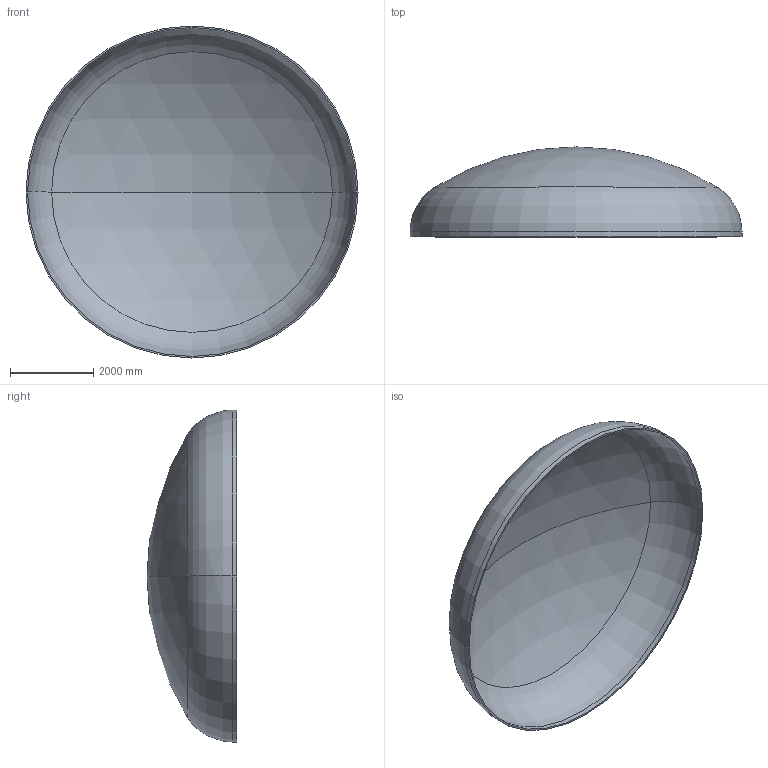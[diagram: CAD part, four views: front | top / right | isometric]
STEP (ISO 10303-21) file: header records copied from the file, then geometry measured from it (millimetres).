
FILE_DESCRIPTION (( 'STEP AP203' ), '1' );
FILE_NAME ('DIN 28013 Korbbogenform_-_Boden DIN 28013 - 8000 x 120 - I - s=37.step', '2016-07-04T11:00:59', ( '' ), ( '' ), 'SwSTEP 2.0', 'SolidWorks 2013', '' );
FILE_SCHEMA (( 'CONFIG_CONTROL_DESIGN' ));
Length unit declared in the file: millimetre
Products named in the file (1): DIN 28013 Korbbogenform_-_Boden DIN 28013 - 8000 x 120 - I - s=37
Bounding box: 8000 x 2168.42 x 8000 mm (x, y, z)
Volume: 2670495284 mm3; surface area: 145279516.9 mm2
Topology: 1 solids, 1 shells, 13 faces, 24 edges, 14 vertices
Faces by surface type: torus 4, cylinder 4, sphere 4, plane 1
Entity records: 407 total; most frequent: DIRECTION 72, CARTESIAN_POINT 52, ORIENTED_EDGE 48, AXIS2_PLACEMENT_3D 34, EDGE_CURVE 24, CIRCLE 20, VERTEX_POINT 14, EDGE_LOOP 14
